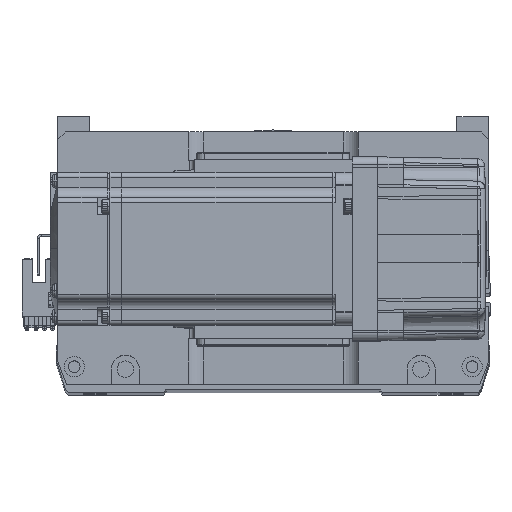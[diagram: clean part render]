
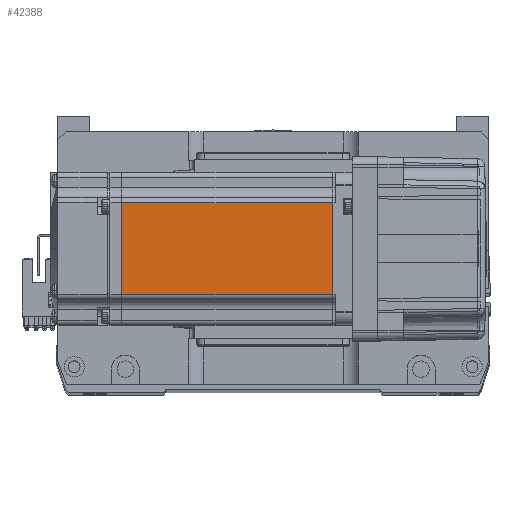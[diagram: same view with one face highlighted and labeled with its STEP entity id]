
A CAD part, top view. The second image highlights one B-rep face of the part: STEP entity #42388.
In plain terms, the highlighted planar face has unit normal (0, 0, 1).
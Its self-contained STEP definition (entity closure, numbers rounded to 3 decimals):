
#235 = DIRECTION ( 'NONE',  ( 0., -1., 0. ) ) ;
#3258 = ORIENTED_EDGE ( 'NONE', *, *, #53693, .F. ) ;
#4479 = CARTESIAN_POINT ( 'NONE',  ( -90.45, 18., 30. ) ) ;
#6518 = LINE ( 'NONE', #43129, #36125 ) ;
#7950 = VERTEX_POINT ( 'NONE', #53830 ) ;
#9306 = CARTESIAN_POINT ( 'NONE',  ( -90.45, -18., 30. ) ) ;
#10073 = ORIENTED_EDGE ( 'NONE', *, *, #39437, .T. ) ;
#10961 = CARTESIAN_POINT ( 'NONE',  ( -6.5, -18., 30. ) ) ;
#11985 = DIRECTION ( 'NONE',  ( -1., 0., 0. ) ) ;
#12092 = EDGE_CURVE ( 'NONE', #45362, #46979, #14679, .T. ) ;
#14679 = LINE ( 'NONE', #47161, #50973 ) ;
#17970 = VERTEX_POINT ( 'NONE', #43484 ) ;
#19311 = CARTESIAN_POINT ( 'NONE',  ( -6.5, 18., 30. ) ) ;
#20722 = CARTESIAN_POINT ( 'NONE',  ( -6.5, -25., 30. ) ) ;
#24307 = AXIS2_PLACEMENT_3D ( 'NONE', #20722, #49947, #25430 ) ;
#25376 = LINE ( 'NONE', #10961, #57294 ) ;
#25430 = DIRECTION ( 'NONE',  ( 1., 0., 0. ) ) ;
#30597 = PLANE ( 'NONE',  #24307 ) ;
#31556 = VECTOR ( 'NONE', #57014, 1000. ) ;
#36125 = VECTOR ( 'NONE', #235, 1000. ) ;
#37413 = EDGE_LOOP ( 'NONE', ( #3258, #10073, #51503, #40972 ) ) ;
#39437 = EDGE_CURVE ( 'NONE', #7950, #45362, #44222, .T. ) ;
#40972 = ORIENTED_EDGE ( 'NONE', *, *, #56924, .F. ) ;
#42172 = FACE_OUTER_BOUND ( 'NONE', #37413, .T. ) ;
#42388 = ADVANCED_FACE ( 'NONE', ( #42172 ), #30597, .T. ) ;
#43129 = CARTESIAN_POINT ( 'NONE',  ( -7.75, 0., 30. ) ) ;
#43484 = CARTESIAN_POINT ( 'NONE',  ( -7.75, -18., 30. ) ) ;
#44222 = LINE ( 'NONE', #19311, #31556 ) ;
#45362 = VERTEX_POINT ( 'NONE', #4479 ) ;
#46979 = VERTEX_POINT ( 'NONE', #9306 ) ;
#47161 = CARTESIAN_POINT ( 'NONE',  ( -90.45, 0., 30. ) ) ;
#49947 = DIRECTION ( 'NONE',  ( 0., 0., 1. ) ) ;
#50973 = VECTOR ( 'NONE', #51527, 1000. ) ;
#51503 = ORIENTED_EDGE ( 'NONE', *, *, #12092, .T. ) ;
#51527 = DIRECTION ( 'NONE',  ( 0., -1., 0. ) ) ;
#53693 = EDGE_CURVE ( 'NONE', #7950, #17970, #6518, .T. ) ;
#53830 = CARTESIAN_POINT ( 'NONE',  ( -7.75, 18., 30. ) ) ;
#56924 = EDGE_CURVE ( 'NONE', #17970, #46979, #25376, .T. ) ;
#57014 = DIRECTION ( 'NONE',  ( -1., 0., 0. ) ) ;
#57294 = VECTOR ( 'NONE', #11985, 1000. ) ;
